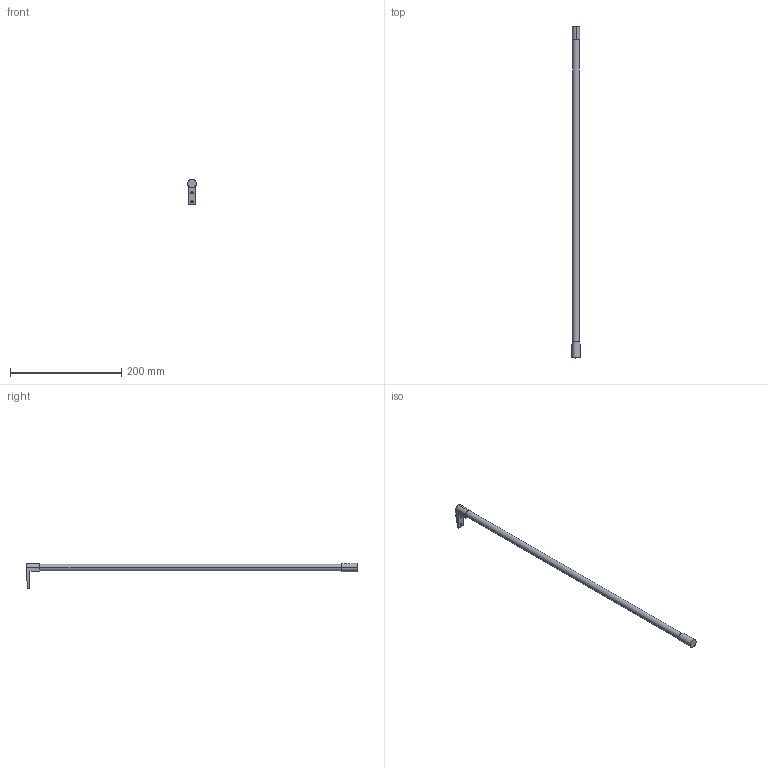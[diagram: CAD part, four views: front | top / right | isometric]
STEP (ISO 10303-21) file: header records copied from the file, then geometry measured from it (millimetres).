
FILE_DESCRIPTION (( 'STEP AP214' ), '1' );
FILE_NAME ('IMOS_Anschraubreling_Set_NL600.step', '2010-10-07T16:15:23', ( 'Grass' ), ( '' ), 'SwSTEP 2.0', 'SolidWorks 2010', '' );
FILE_SCHEMA (( 'AUTOMOTIVE_DESIGN' ));
Length unit declared in the file: millimetre
Products named in the file (1): IMOS_Anschraubreling_Set_NL600
Bounding box: 15.5 x 596.9 x 45.75 mm (x, y, z)
Volume: 72368.7 mm3; surface area: 24691.4 mm2
Topology: 1 solids, 1 shells, 24 faces, 57 edges, 38 vertices
Faces by surface type: plane 12, cylinder 10, cone 2
Entity records: 745 total; most frequent: DIRECTION 127, CARTESIAN_POINT 126, ORIENTED_EDGE 114, EDGE_CURVE 57, AXIS2_PLACEMENT_3D 47, VERTEX_POINT 38, LINE 33, VECTOR 33
